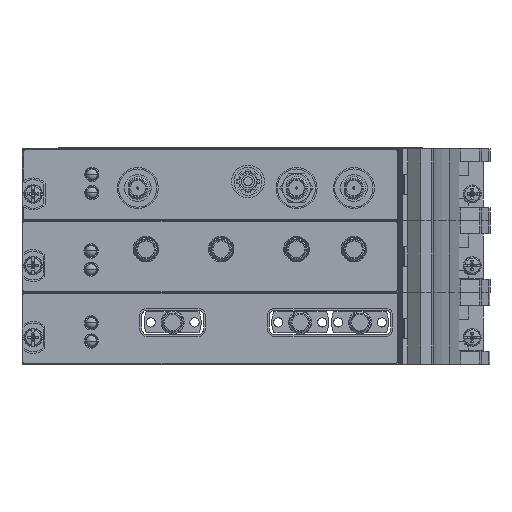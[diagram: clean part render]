
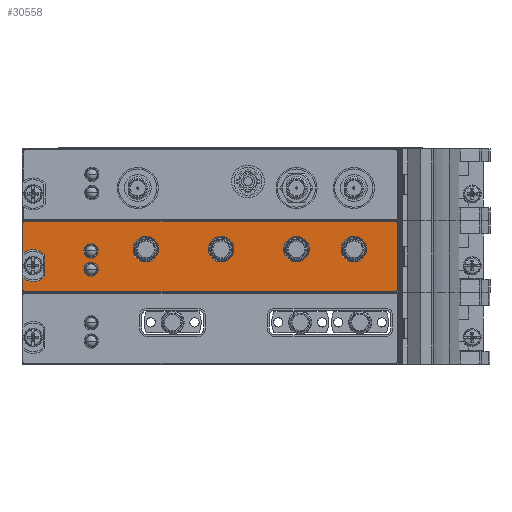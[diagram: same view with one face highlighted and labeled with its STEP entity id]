
A CAD part, left-side view. The second image highlights one B-rep face of the part: STEP entity #30558.
In plain terms, the highlighted planar face has unit normal (-1, 0, 0).
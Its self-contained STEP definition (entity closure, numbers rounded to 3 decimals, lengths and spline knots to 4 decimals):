
#3697=CARTESIAN_POINT('',(-0.2199,0.535,-0.123));
#3698=DIRECTION('',(-1.,0.,0.));
#3699=DIRECTION('',(0.,0.,1.));
#3700=AXIS2_PLACEMENT_3D('',#3697,#3698,#3699);
#3702=DIRECTION('',(0.,1.,0.));
#3703=VECTOR('',#3702,4.07);
#3704=CARTESIAN_POINT('',(-0.2199,-3.535,-0.103));
#3705=LINE('',#3704,#3703);
#3706=CARTESIAN_POINT('',(-0.2199,-3.535,-0.123));
#3707=DIRECTION('',(-1.,0.,0.));
#3708=DIRECTION('',(0.,-1.,0.));
#3709=AXIS2_PLACEMENT_3D('',#3706,#3707,#3708);
#3711=DIRECTION('',(0.,0.,1.));
#3712=VECTOR('',#3711,0.728);
#3713=CARTESIAN_POINT('',(-0.2199,-3.555,-0.851));
#3714=LINE('',#3713,#3712);
#3715=CARTESIAN_POINT('',(-0.2199,-3.535,-0.851));
#3716=DIRECTION('',(-1.,0.,0.));
#3717=DIRECTION('',(0.,0.,-1.));
#3718=AXIS2_PLACEMENT_3D('',#3715,#3716,#3717);
#3720=DIRECTION('',(0.,-1.,0.));
#3721=VECTOR('',#3720,4.07);
#3722=CARTESIAN_POINT('',(-0.2199,0.535,-0.871));
#3723=LINE('',#3722,#3721);
#3724=CARTESIAN_POINT('',(-0.2199,0.535,-0.851));
#3725=DIRECTION('',(-1.,0.,0.));
#3726=DIRECTION('',(0.,1.,0.));
#3727=AXIS2_PLACEMENT_3D('',#3724,#3725,#3726);
#3729=DIRECTION('',(0.,0.,-1.));
#3730=VECTOR('',#3729,0.1295);
#3731=CARTESIAN_POINT('',(-0.2199,0.555,-0.7215));
#3732=LINE('',#3731,#3730);
#3733=CARTESIAN_POINT('',(-0.2199,0.443,-0.587));
#3734=DIRECTION('',(1.,0.,0.));
#3735=DIRECTION('',(0.,-0.737,-0.676));
#3736=AXIS2_PLACEMENT_3D('',#3733,#3734,#3735);
#3738=DIRECTION('',(0.,0.,-1.));
#3739=VECTOR('',#3738,0.2365);
#3740=CARTESIAN_POINT('',(-0.2199,0.314,-0.4687));
#3741=LINE('',#3740,#3739);
#3742=CARTESIAN_POINT('',(-0.2199,0.443,-0.587));
#3743=DIRECTION('',(1.,0.,0.));
#3744=DIRECTION('',(0.,0.64,0.768));
#3745=AXIS2_PLACEMENT_3D('',#3742,#3743,#3744);
#3747=DIRECTION('',(0.,0.,-1.));
#3748=VECTOR('',#3747,0.3295);
#3749=CARTESIAN_POINT('',(-0.2199,0.555,-0.123));
#3750=LINE('',#3749,#3748);
#3751=CARTESIAN_POINT('',(-0.2199,-3.0785,-0.4067));
#3752=DIRECTION('',(-1.,0.,0.));
#3753=DIRECTION('',(0.,-1.,0.));
#3754=AXIS2_PLACEMENT_3D('',#3751,#3752,#3753);
#3756=CARTESIAN_POINT('',(-0.2199,-3.0785,-0.4067));
#3757=DIRECTION('',(-1.,0.,0.));
#3758=DIRECTION('',(0.,1.,0.));
#3759=AXIS2_PLACEMENT_3D('',#3756,#3757,#3758);
#3761=CARTESIAN_POINT('',(-0.2199,-2.4486,-0.4067));
#3762=DIRECTION('',(-1.,0.,0.));
#3763=DIRECTION('',(0.,-1.,0.));
#3764=AXIS2_PLACEMENT_3D('',#3761,#3762,#3763);
#3766=CARTESIAN_POINT('',(-0.2199,-2.4486,-0.4067));
#3767=DIRECTION('',(-1.,0.,0.));
#3768=DIRECTION('',(0.,1.,0.));
#3769=AXIS2_PLACEMENT_3D('',#3766,#3767,#3768);
#3771=CARTESIAN_POINT('',(-0.2199,-1.6218,-0.4067));
#3772=DIRECTION('',(-1.,0.,0.));
#3773=DIRECTION('',(0.,-1.,0.));
#3774=AXIS2_PLACEMENT_3D('',#3771,#3772,#3773);
#3776=CARTESIAN_POINT('',(-0.2199,-1.6218,-0.4067));
#3777=DIRECTION('',(-1.,0.,0.));
#3778=DIRECTION('',(0.,1.,0.));
#3779=AXIS2_PLACEMENT_3D('',#3776,#3777,#3778);
#3781=CARTESIAN_POINT('',(-0.2199,-0.7951,
-0.4067));
#3782=DIRECTION('',(-1.,0.,0.));
#3783=DIRECTION('',(0.,-1.,0.));
#3784=AXIS2_PLACEMENT_3D('',#3781,#3782,#3783);
#3786=CARTESIAN_POINT('',(-0.2199,-0.7951,
-0.4067));
#3787=DIRECTION('',(-1.,0.,0.));
#3788=DIRECTION('',(0.,1.,0.));
#3789=AXIS2_PLACEMENT_3D('',#3786,#3787,#3788);
#3791=CARTESIAN_POINT('',(-0.2199,-0.1935,-0.426));
#3792=DIRECTION('',(-1.,0.,0.));
#3793=DIRECTION('',(0.,0.,1.));
#3794=AXIS2_PLACEMENT_3D('',#3791,#3792,#3793);
#3796=CARTESIAN_POINT('',(-0.2199,-0.1935,-0.426));
#3797=DIRECTION('',(-1.,0.,0.));
#3798=DIRECTION('',(0.,0.,-1.));
#3799=AXIS2_PLACEMENT_3D('',#3796,#3797,#3798);
#3801=CARTESIAN_POINT('',(-0.2199,-0.1935,-0.626));
#3802=DIRECTION('',(-1.,0.,0.));
#3803=DIRECTION('',(0.,0.,1.));
#3804=AXIS2_PLACEMENT_3D('',#3801,#3802,#3803);
#3806=CARTESIAN_POINT('',(-0.2199,-0.1935,-0.626));
#3807=DIRECTION('',(-1.,0.,0.));
#3808=DIRECTION('',(0.,0.,-1.));
#3809=AXIS2_PLACEMENT_3D('',#3806,#3807,#3808);
#23330=CARTESIAN_POINT('',(-0.2199,0.535,-0.103));
#23331=CARTESIAN_POINT('',(-0.2199,0.555,-0.123));
#23332=VERTEX_POINT('',#23330);
#23333=VERTEX_POINT('',#23331);
#23334=CARTESIAN_POINT('',(-0.2199,0.555,-0.4525));
#23335=VERTEX_POINT('',#23334);
#23336=CARTESIAN_POINT('',(-0.2199,0.314,-0.4687));
#23337=VERTEX_POINT('',#23336);
#23338=CARTESIAN_POINT('',(-0.2199,0.314,-0.7053));
#23339=VERTEX_POINT('',#23338);
#23340=CARTESIAN_POINT('',(-0.2199,0.555,-0.7215));
#23341=VERTEX_POINT('',#23340);
#23342=CARTESIAN_POINT('',(-0.2199,0.555,-0.851));
#23343=VERTEX_POINT('',#23342);
#23344=CARTESIAN_POINT('',(-0.2199,0.535,-0.871));
#23345=VERTEX_POINT('',#23344);
#23346=CARTESIAN_POINT('',(-0.2199,-3.535,-0.871));
#23347=VERTEX_POINT('',#23346);
#23348=CARTESIAN_POINT('',(-0.2199,-3.555,-0.851));
#23349=VERTEX_POINT('',#23348);
#23350=CARTESIAN_POINT('',(-0.2199,-3.555,-0.123));
#23351=VERTEX_POINT('',#23350);
#23352=CARTESIAN_POINT('',(-0.2199,-3.535,-0.103));
#23353=VERTEX_POINT('',#23352);
#23354=CARTESIAN_POINT('',(-0.2199,-3.2185,
-0.4067));
#23355=CARTESIAN_POINT('',(-0.2199,-2.9385,
-0.4067));
#23356=VERTEX_POINT('',#23354);
#23357=VERTEX_POINT('',#23355);
#23358=CARTESIAN_POINT('',(-0.2199,-2.5886,
-0.4067));
#23359=CARTESIAN_POINT('',(-0.2199,-2.3086,
-0.4067));
#23360=VERTEX_POINT('',#23358);
#23361=VERTEX_POINT('',#23359);
#23362=CARTESIAN_POINT('',(-0.2199,-1.7618,
-0.4067));
#23363=CARTESIAN_POINT('',(-0.2199,-1.4818,
-0.4067));
#23364=VERTEX_POINT('',#23362);
#23365=VERTEX_POINT('',#23363);
#23366=CARTESIAN_POINT('',(-0.2199,-0.9351,
-0.4067));
#23367=CARTESIAN_POINT('',(-0.2199,-0.6551,
-0.4067));
#23368=VERTEX_POINT('',#23366);
#23369=VERTEX_POINT('',#23367);
#23378=CARTESIAN_POINT('',(-0.2199,-0.1935,-0.3475));
#23379=CARTESIAN_POINT('',(-0.2199,-0.1935,-0.5045));
#23380=VERTEX_POINT('',#23378);
#23381=VERTEX_POINT('',#23379);
#23382=CARTESIAN_POINT('',(-0.2199,-0.1935,-0.5475));
#23383=CARTESIAN_POINT('',(-0.2199,-0.1935,-0.7045));
#23384=VERTEX_POINT('',#23382);
#23385=VERTEX_POINT('',#23383);
#30493=CARTESIAN_POINT('',(-0.2199,0.443,-0.587));
#30494=DIRECTION('',(-1.,0.,0.));
#30495=DIRECTION('',(0.,0.,1.));
#30496=AXIS2_PLACEMENT_3D('',#30493,#30494,#30495);
#30497=PLANE('',#30496);
#30498=ORIENTED_EDGE('',*,*,#30422,.F.);
#30500=ORIENTED_EDGE('',*,*,#30499,.F.);
#30502=ORIENTED_EDGE('',*,*,#30501,.F.);
#30504=ORIENTED_EDGE('',*,*,#30503,.F.);
#30506=ORIENTED_EDGE('',*,*,#30505,.F.);
#30508=ORIENTED_EDGE('',*,*,#30507,.F.);
#30510=ORIENTED_EDGE('',*,*,#30509,.F.);
#30512=ORIENTED_EDGE('',*,*,#30511,.F.);
#30514=ORIENTED_EDGE('',*,*,#30513,.F.);
#30516=ORIENTED_EDGE('',*,*,#30515,.F.);
#30518=ORIENTED_EDGE('',*,*,#30517,.F.);
#30519=ORIENTED_EDGE('',*,*,#30486,.F.);
#30520=EDGE_LOOP('',(#30498,#30500,#30502,#30504,#30506,#30508,#30510,#30512,
#30514,#30516,#30518,#30519));
#30521=FACE_OUTER_BOUND('',#30520,.F.);
#30523=ORIENTED_EDGE('',*,*,#30522,.T.);
#30525=ORIENTED_EDGE('',*,*,#30524,.T.);
#30526=EDGE_LOOP('',(#30523,#30525));
#30527=FACE_BOUND('',#30526,.F.);
#30529=ORIENTED_EDGE('',*,*,#30528,.T.);
#30531=ORIENTED_EDGE('',*,*,#30530,.T.);
#30532=EDGE_LOOP('',(#30529,#30531));
#30533=FACE_BOUND('',#30532,.F.);
#30535=ORIENTED_EDGE('',*,*,#30534,.T.);
#30537=ORIENTED_EDGE('',*,*,#30536,.T.);
#30538=EDGE_LOOP('',(#30535,#30537));
#30539=FACE_BOUND('',#30538,.F.);
#30541=ORIENTED_EDGE('',*,*,#30540,.T.);
#30543=ORIENTED_EDGE('',*,*,#30542,.T.);
#30544=EDGE_LOOP('',(#30541,#30543));
#30545=FACE_BOUND('',#30544,.F.);
#30547=ORIENTED_EDGE('',*,*,#30546,.T.);
#30549=ORIENTED_EDGE('',*,*,#30548,.T.);
#30550=EDGE_LOOP('',(#30547,#30549));
#30551=FACE_BOUND('',#30550,.F.);
#30553=ORIENTED_EDGE('',*,*,#30552,.T.);
#30555=ORIENTED_EDGE('',*,*,#30554,.T.);
#30556=EDGE_LOOP('',(#30553,#30555));
#30557=FACE_BOUND('',#30556,.F.);
#30558=ADVANCED_FACE('',(#30521,#30527,#30533,#30539,#30545,#30551,#30557),
#30497,.T.);
#3701=CIRCLE('',#3700,0.02);
#3710=CIRCLE('',#3709,0.02);
#3719=CIRCLE('',#3718,0.02);
#3728=CIRCLE('',#3727,0.02);
#3737=CIRCLE('',#3736,0.175);
#3746=CIRCLE('',#3745,0.175);
#3755=CIRCLE('',#3754,0.14);
#3760=CIRCLE('',#3759,0.14);
#3765=CIRCLE('',#3764,0.14);
#3770=CIRCLE('',#3769,0.14);
#3775=CIRCLE('',#3774,0.14);
#3780=CIRCLE('',#3779,0.14);
#3785=CIRCLE('',#3784,0.14);
#3790=CIRCLE('',#3789,0.14);
#3795=CIRCLE('',#3794,0.0785);
#3800=CIRCLE('',#3799,0.0785);
#3805=CIRCLE('',#3804,0.0785);
#3810=CIRCLE('',#3809,0.0785);
#30422=EDGE_CURVE('',#23332,#23333,#3701,.T.);
#30486=EDGE_CURVE('',#23333,#23335,#3750,.T.);
#30499=EDGE_CURVE('',#23353,#23332,#3705,.T.);
#30501=EDGE_CURVE('',#23351,#23353,#3710,.T.);
#30503=EDGE_CURVE('',#23349,#23351,#3714,.T.);
#30505=EDGE_CURVE('',#23347,#23349,#3719,.T.);
#30507=EDGE_CURVE('',#23345,#23347,#3723,.T.);
#30509=EDGE_CURVE('',#23343,#23345,#3728,.T.);
#30511=EDGE_CURVE('',#23341,#23343,#3732,.T.);
#30513=EDGE_CURVE('',#23339,#23341,#3737,.T.);
#30515=EDGE_CURVE('',#23337,#23339,#3741,.T.);
#30517=EDGE_CURVE('',#23335,#23337,#3746,.T.);
#30522=EDGE_CURVE('',#23356,#23357,#3755,.T.);
#30524=EDGE_CURVE('',#23357,#23356,#3760,.T.);
#30528=EDGE_CURVE('',#23360,#23361,#3765,.T.);
#30530=EDGE_CURVE('',#23361,#23360,#3770,.T.);
#30534=EDGE_CURVE('',#23364,#23365,#3775,.T.);
#30536=EDGE_CURVE('',#23365,#23364,#3780,.T.);
#30540=EDGE_CURVE('',#23368,#23369,#3785,.T.);
#30542=EDGE_CURVE('',#23369,#23368,#3790,.T.);
#30546=EDGE_CURVE('',#23380,#23381,#3795,.T.);
#30548=EDGE_CURVE('',#23381,#23380,#3800,.T.);
#30552=EDGE_CURVE('',#23384,#23385,#3805,.T.);
#30554=EDGE_CURVE('',#23385,#23384,#3810,.T.);
